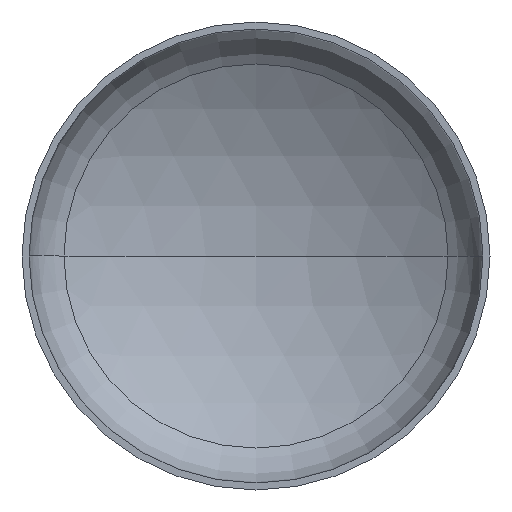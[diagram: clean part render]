
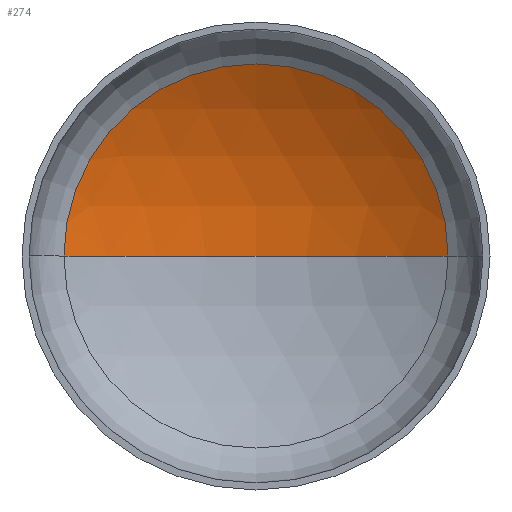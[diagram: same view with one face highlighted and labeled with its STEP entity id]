
A CAD part, front view. The second image highlights one B-rep face of the part: STEP entity #274.
In plain terms, the highlighted spherical face has radius 1280 mm.
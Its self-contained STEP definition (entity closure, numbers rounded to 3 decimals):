
#9 = DIRECTION ( 'NONE',  ( 0., 0., 1. ) ) ;
#12 = VERTEX_POINT ( 'NONE', #277 ) ;
#15 = CARTESIAN_POINT ( 'NONE',  ( 0., -813.405, 0. ) ) ;
#17 = AXIS2_PLACEMENT_3D ( 'NONE', #180, #93, #393 ) ;
#20 = DIRECTION ( 'NONE',  ( 0., 0., -1. ) ) ;
#28 = EDGE_LOOP ( 'NONE', ( #162, #128, #120 ) ) ;
#34 = AXIS2_PLACEMENT_3D ( 'NONE', #15, #9, #42 ) ;
#37 = AXIS2_PLACEMENT_3D ( 'NONE', #199, #20, #245 ) ;
#40 = AXIS2_PLACEMENT_3D ( 'NONE', #220, #218, #219 ) ;
#42 = DIRECTION ( 'NONE',  ( 1., 0., 0. ) ) ;
#82 = EDGE_CURVE ( 'NONE', #176, #12, #334, .T. ) ;
#85 = EDGE_CURVE ( 'NONE', #295, #176, #271, .T. ) ;
#89 = EDGE_CURVE ( 'NONE', #295, #12, #204, .T. ) ;
#93 = DIRECTION ( 'NONE',  ( 0., 0., -1. ) ) ;
#120 = ORIENTED_EDGE ( 'NONE', *, *, #82, .T. ) ;
#128 = ORIENTED_EDGE ( 'NONE', *, *, #85, .T. ) ;
#162 = ORIENTED_EDGE ( 'NONE', *, *, #89, .F. ) ;
#175 = FACE_OUTER_BOUND ( 'NONE', #28, .T. ) ;
#176 = VERTEX_POINT ( 'NONE', #254 ) ;
#180 = CARTESIAN_POINT ( 'NONE',  ( 0., -813.405, 0. ) ) ;
#192 = SPHERICAL_SURFACE ( 'NONE', #17, 1280. ) ;
#199 = CARTESIAN_POINT ( 'NONE',  ( 0., -813.405, 0. ) ) ;
#204 = CIRCLE ( 'NONE', #34, 1280. ) ;
#218 = DIRECTION ( 'NONE',  ( 0., -1., 0. ) ) ;
#219 = DIRECTION ( 'NONE',  ( 1., 0., 0. ) ) ;
#220 = CARTESIAN_POINT ( 'NONE',  ( 0., 285.299, 0. ) ) ;
#245 = DIRECTION ( 'NONE',  ( -1., 0., 0. ) ) ;
#254 = CARTESIAN_POINT ( 'NONE',  ( 656.696, 285.299, 0. ) ) ;
#271 = CIRCLE ( 'NONE', #37, 1280. ) ;
#274 = ADVANCED_FACE ( 'NONE', ( #175 ), #192, .F. ) ;
#277 = CARTESIAN_POINT ( 'NONE',  ( -656.696, 285.299, 0. ) ) ;
#295 = VERTEX_POINT ( 'NONE', #397 ) ;
#334 = CIRCLE ( 'NONE', #40, 656.696 ) ;
#393 = DIRECTION ( 'NONE',  ( -1., 0., 0. ) ) ;
#397 = CARTESIAN_POINT ( 'NONE',  ( 0., 466.595, 0. ) ) ;
